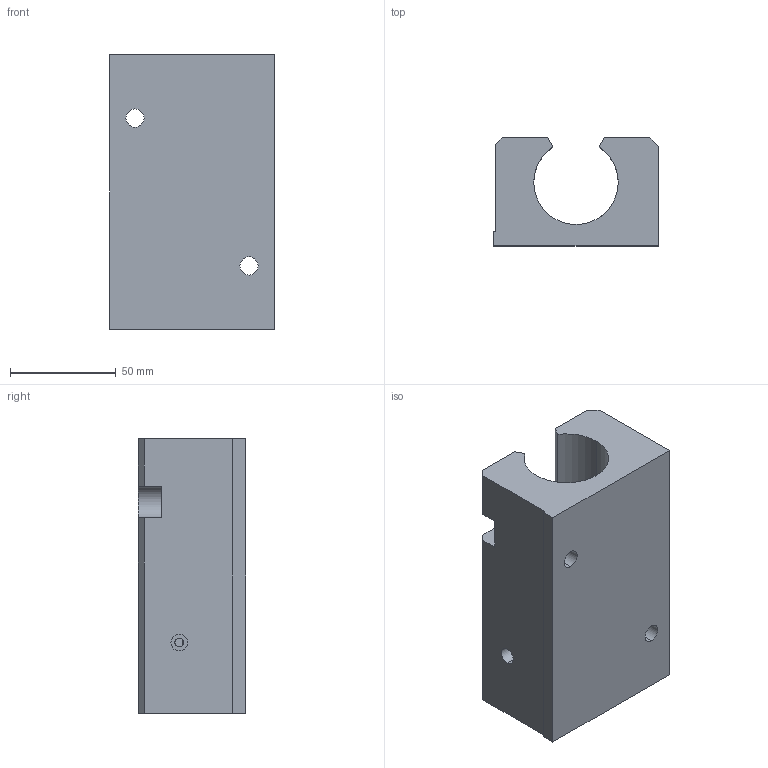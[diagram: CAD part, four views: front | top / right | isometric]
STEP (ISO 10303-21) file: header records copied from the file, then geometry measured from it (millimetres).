
FILE_DESCRIPTION (( 'STEP AP214' ), '1' );
FILE_NAME ('KTGO87-25.step', '2020-03-04T13:28:41', ( '' ), ( '' ), 'SwSTEP 2.0', 'SolidWorks 2019', '' );
FILE_SCHEMA (( 'AUTOMOTIVE_DESIGN' ));
Length unit declared in the file: millimetre
Products named in the file (1): KTGO87-25
Bounding box: 78 x 51 x 130 mm (x, y, z)
Volume: 326803.3 mm3; surface area: 53117 mm2
Topology: 1 solids, 1 shells, 46 faces, 128 edges, 84 vertices
Faces by surface type: plane 23, cylinder 21, cone 2
Entity records: 1786 total; most frequent: CARTESIAN_POINT 425, ORIENTED_EDGE 256, DIRECTION 248, EDGE_CURVE 128, VERTEX_POINT 84, AXIS2_PLACEMENT_3D 83, LINE 82, VECTOR 82
